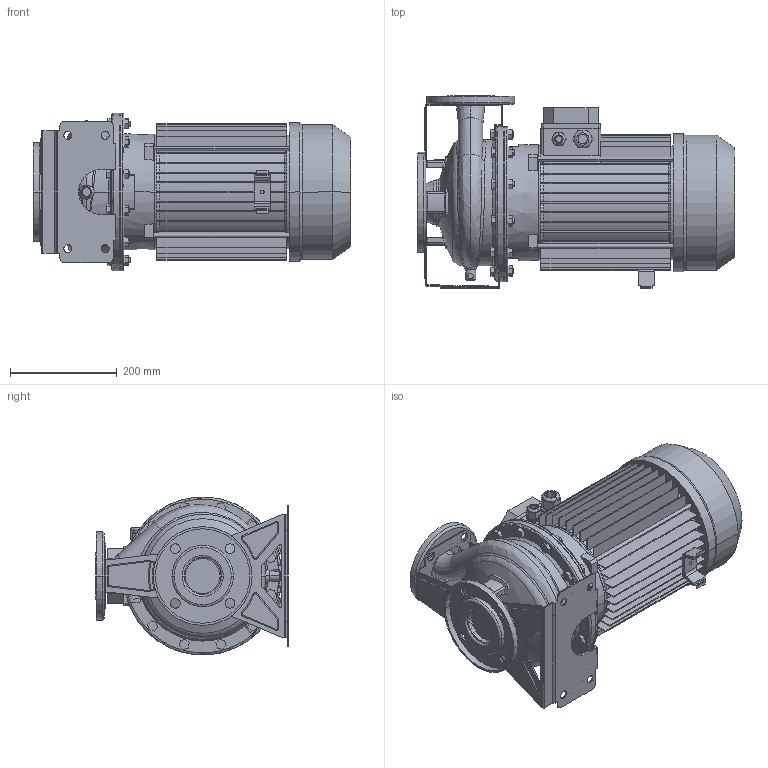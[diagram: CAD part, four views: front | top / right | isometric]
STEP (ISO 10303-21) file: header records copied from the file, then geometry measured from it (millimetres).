
FILE_DESCRIPTION((''),'2;1');
FILE_NAME('3M_50-200_11_IE2_IE3_ASM_ASM','2020-10-30T13:19:31',('Bertolani'),('"Ebara Pumps Europe +39.444.706811"'),'CREO PARAMETRIC BY PTC INC, 2016390','CREO PARAMETRIC BY PTC INC, 2016390','');
FILE_SCHEMA(('AUTOMOTIVE_DESIGN { 1 0 10303 214 1 1 1 1 }'));
Length unit declared in the file: millimetre
Products named in the file (16): CORPO_50-200_AF0_143; ASP_50-200_17_1; ASP_50-200_17_2; ASP_50-200_17_3; ASP_50-200_17_4; ASP_50-200_17_ASM; FLANGIA_DIN_65_19; MAND_50-200_231; FLANGIA_DIN_50_19; BASE_3M_50-200_121; CORPO_SALDATO_50-200_ASM_100_ASM; SUPPORTO_3M_230_132_141; MEC_132X170_190_IE2_7; SOSTEGNO_72010_12; 3M_50-200_11_IE2_IE3_ASM_119_ASM; 3M_50-200_11_IE2_IE3_ASM_ASM
Assembly tree (15 placements, depth 5):
  3M_50-200_11_IE2_IE3_ASM_ASM
    3M_50-200_11_IE2_IE3_ASM_119_ASM
      CORPO_SALDATO_50-200_ASM_100_ASM
        CORPO_50-200_AF0_143
        ASP_50-200_17_ASM
          ASP_50-200_17_1
          ASP_50-200_17_2
          ASP_50-200_17_3
          ASP_50-200_17_4
        FLANGIA_DIN_65_19
        MAND_50-200_231
        FLANGIA_DIN_50_19
        BASE_3M_50-200_121
      SUPPORTO_3M_230_132_141
      MEC_132X170_190_IE2_7
      SOSTEGNO_72010_12
Bounding box: 595 x 360 x 295.54 mm (x, y, z)
Volume: 16292778.6 mm3; surface area: 1809299.3 mm2
Topology: 12 solids, 12 shells, 1123 faces, 2892 edges, 1867 vertices
Faces by surface type: plane 619, cylinder 316, cone 94, torus 62, bspline 26, sphere 6
Entity records: 50626 total; most frequent: CARTESIAN_POINT 8798, DIRECTION 6158, ORIENTED_EDGE 5782, PRESENTATION_STYLE_ASSIGNMENT 2903, STYLED_ITEM 2903, CURVE_STYLE 2891, EDGE_CURVE 2891, AXIS2_PLACEMENT_3D 2241
